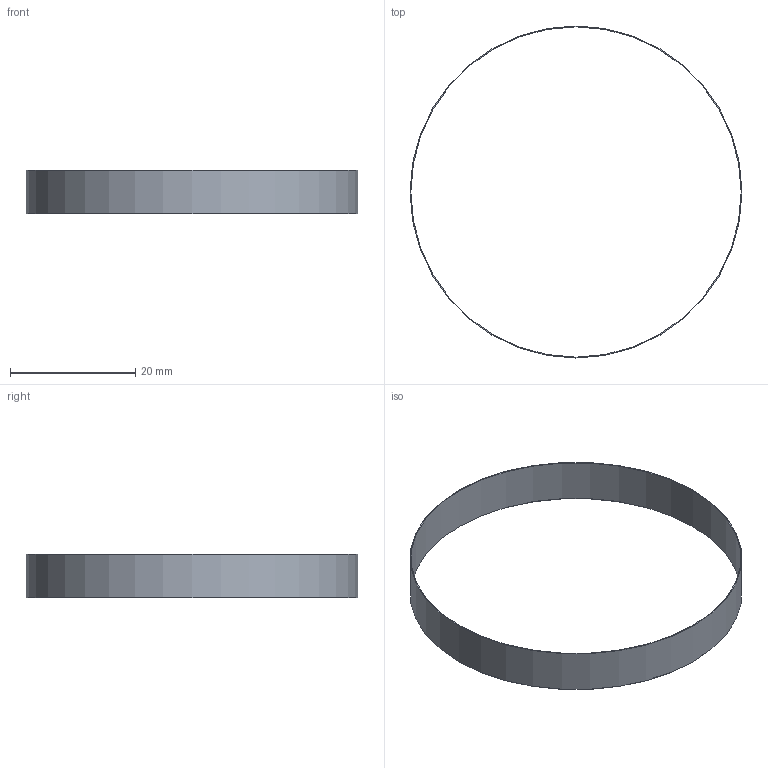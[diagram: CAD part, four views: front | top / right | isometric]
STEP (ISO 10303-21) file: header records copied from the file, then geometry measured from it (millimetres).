
FILE_DESCRIPTION(('Open CASCADE Model'),'2;1');
FILE_NAME('Open CASCADE Shape Model','2026-11-23T18:10:19',('Author'),( 'Open CASCADE'),'Open CASCADE STEP processor 8.0','build123d', 'Unknown');
FILE_SCHEMA(('AUTOMOTIVE_DESIGN { 1 0 10303 214 1 1 1 1 }'));
Length unit declared in the file: millimetre
Products named in the file (1): SOLID
Bounding box: 53 x 53 x 7 mm (x, y, z)
Volume: 151.1 mm3; surface area: 2368.5 mm2
Topology: 1 solids, 1 shells, 4 faces, 6 edges, 4 vertices
Faces by surface type: cylinder 2, plane 2
Full cylindrical faces by diameter (mm): 52.74 x1, 53 x1
Entity records: 186 total; most frequent: DIRECTION 32, CARTESIAN_POINT 27, ORIENTED_EDGE 12, PCURVE 12, DEFINITIONAL_REPRESENTATION 12, LINE 10, VECTOR 10, AXIS2_PLACEMENT_3D 9
